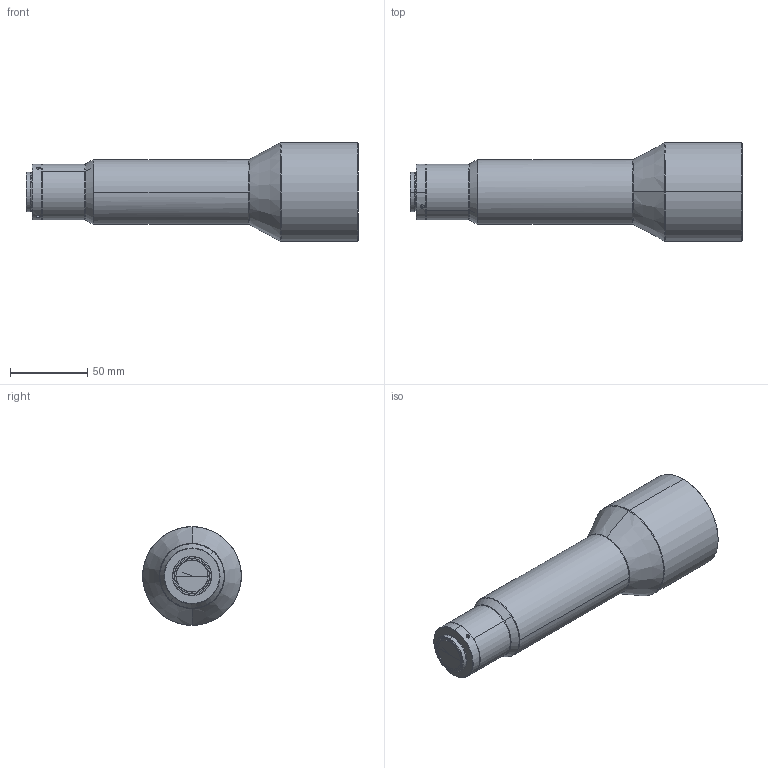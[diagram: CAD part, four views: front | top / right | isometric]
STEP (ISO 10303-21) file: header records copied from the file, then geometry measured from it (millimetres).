
FILE_DESCRIPTION (( 'STEP AP203' ), '1' );
FILE_NAME ('WWK042-285-110.STEP', '2023-12-04T02:47:44', ( '' ), ( '' ), 'SwSTEP 2.0', 'SolidWorks 2017', '' );
FILE_SCHEMA (( 'CONFIG_CONTROL_DESIGN' ));
Length unit declared in the file: millimetre
Products named in the file (1): WWK042-285-110
Bounding box: 214.65 x 64 x 64 mm (x, y, z)
Volume: 386588 mm3; surface area: 36672.1 mm2
Topology: 1 solids, 1 shells, 68 faces, 160 edges, 98 vertices
Faces by surface type: cone 30, cylinder 25, bspline 8, plane 5
Entity records: 2573 total; most frequent: CARTESIAN_POINT 1002, DIRECTION 315, ORIENTED_EDGE 312, EDGE_CURVE 156, AXIS2_PLACEMENT_3D 132, VERTEX_POINT 98, EDGE_LOOP 76, CIRCLE 71
